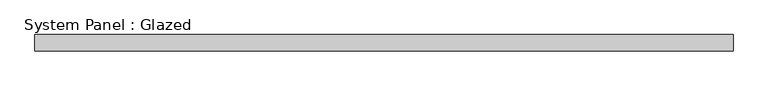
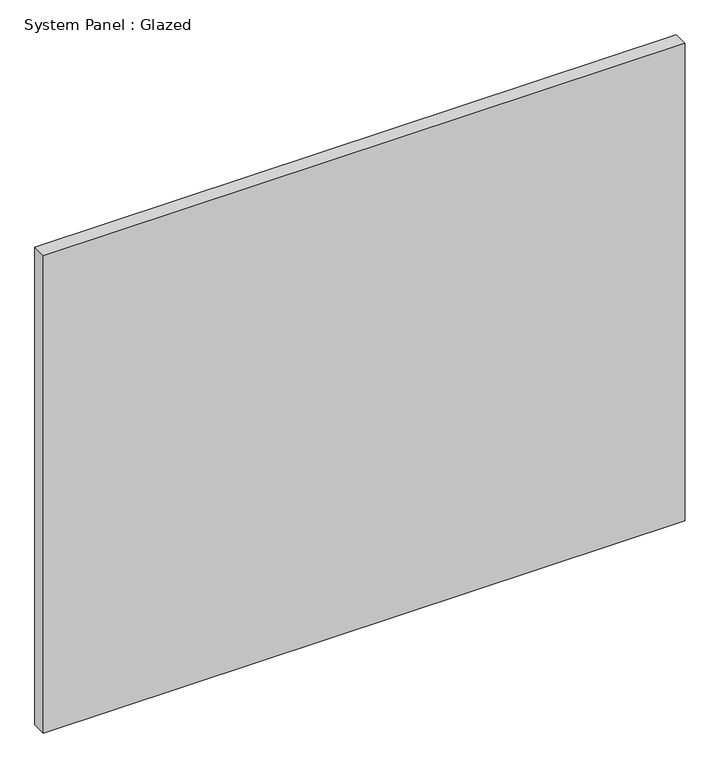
"""IFC4 building model written with IfcOpenShell, lengths in millimetres: plate geometry, System Panel : Glazed."""

from ifc_helpers import new_model, si_unit, origin, origin_with_axes, place, context, project, spatial, polyline, outline, extrude, source, transform, mapped, element, save


def system_panel_glazed_cb8300d5(model_context):
    return source(origin(), model_context, "Body", "SweptSolid", [
        extrude(outline(polyline([(549.275, 19.05), (-549.275, 19.05), (-549.275, 44.45), (549.275, 44.45), (549.275, 19.05)])), origin_with_axes(), (0.0, 0.0, 1.0), 863.6),
    ])


if __name__ == "__main__":
    model = new_model("IFC4")
    model_context = context("Model", 3, world=origin())
    ifc_project = project(units=[si_unit("LENGTHUNIT", "METRE", prefix="MILLI")], contexts=[model_context])
    site = spatial("IfcSite", under=ifc_project)
    building = spatial("IfcBuilding", under=site)
    placement = place(None, origin())
    system_panel_glazed_shape = system_panel_glazed_cb8300d5(model_context)
    element("IfcPlate", 1, ObjectType="System Panel : Glazed", at=placement, inside=building, context=model_context, shape_type="MappedRepresentation", body=[
        mapped(system_panel_glazed_shape, transform((0.0, 0.0, 0.0), x_axis=(1.0, 0.0, 0.0), y_axis=(0.0, 1.0, 0.0), z_axis=(0.0, 0.0, 1.0))),
    ])
    save(model, "model.ifc")
